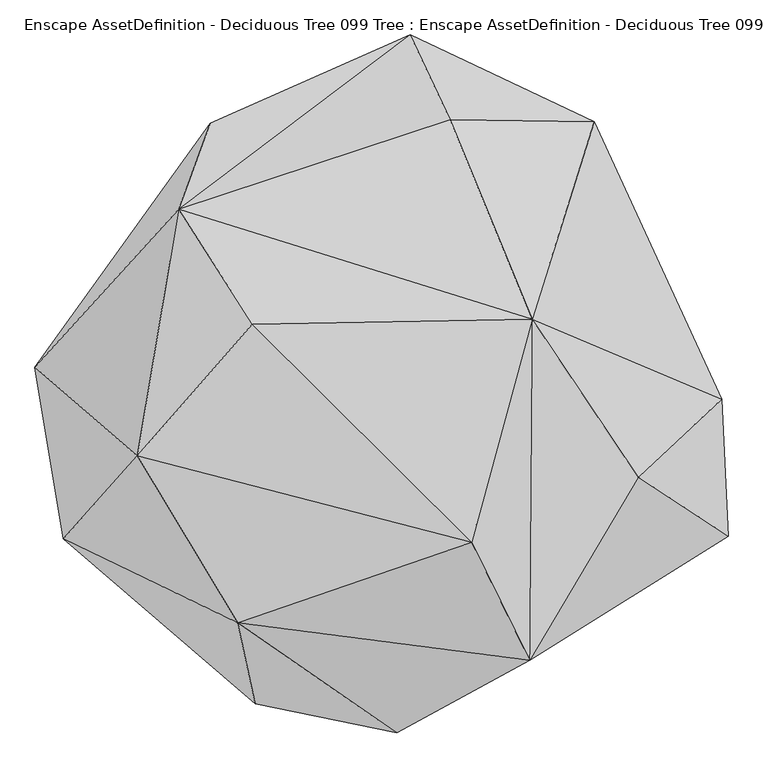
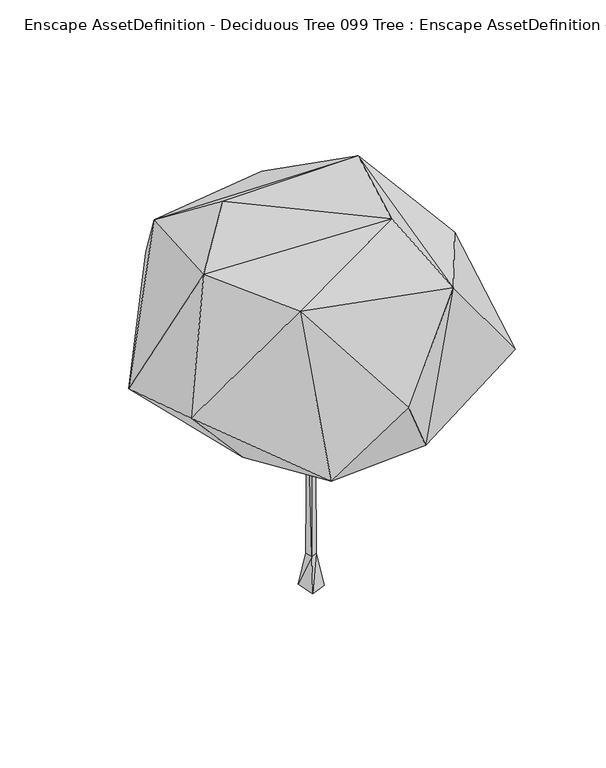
"""IFC4 building model written with IfcOpenShell, lengths in millimetres: geographic element geometry, Enscape AssetDefinition - Deciduous Tree 099 Tree : Enscape AssetDefinition - Deciduous Tree 099 Tree 2."""

from ifc_helpers import new_model, si_unit, origin, place, context, project, spatial, triangles, source, transform, mapped, element, save


def enscape_assetdefinition_deciduous_tree_099_tree_enscape_438e4a8d(model_context):
    return source(origin(), model_context, "Body", "Tessellation", [
        triangles([(1129.7064074, -296.1104141, 2939.8234634), (1527.4606899, -556.6615162, 1836.2963448), (1499.611227, 48.5193767, 1794.1471733), (543.0351677, -574.9966252, 1233.9976433), (-641.9937349, -940.1277901, 3194.250666), (660.2828802, 402.7801749, 3408.5585152), (648.9490517, -1105.8264696, 3066.3776573), (-1085.6222523, -202.5905592, 3257.0000336), (392.5406837, -585.1700595, 3500.0000267), (-1539.5692532, 191.1128623, 2079.7152077), (-1413.9275036, -569.7229646, 2215.7662056), (-1043.769211, -734.9227283, 1810.6638977), (-564.7240691, -1299.4901573, 1757.2388157), (356.2136496, -1181.040774, 1707.0769066), (62.3060761, -1428.1411709, 2316.5514782), (-735.3826567, -314.7273737, 1575.3632893), (-763.2308115, 1269.549979, 2460.0693169), (-590.2420246, 1008.1957283, 1526.0657169), (297.2554932, 1284.801083, 2853.0773048), (936.2245399, 1277.3307541, 2094.7342037), (120.4293315, 1660.556345, 2042.3929218), (434.8158648, 1210.3416018, 1558.5881504), (-904.0223631, 888.8878218, 3052.9697548), (-577.0378524, 380.1937992, 3421.9178741), (-9.8491604, -28.9637458, 1754.1375515), (-37.8176158, -96.7604456, -232.6262622), (-72.1917963, 72.1906154, -232.4976909), (0.0, 105.9492198, -232.7925312), (96.7604456, -37.8176158, -232.6250813), (0.0082548, 42.7775715, 76.8522222), (2.7488497, 32.6548223, 1754.0561611), (-16.3433327, -39.0758807, 76.8616602), (-29.7031424, 29.7125759, 76.8604793), (39.0841332, -16.349228, 76.8380788), (-19.8292175, 23.0309025, 1754.1022339), (32.2526961, -12.1947021, 1754.0432259)], [[27, 28, 29], [36, 31, 35], [32, 25, 35], [31, 36, 34], [29, 28, 30], [30, 33, 35], [34, 32, 26], [27, 33, 30], [32, 33, 27], [25, 32, 34], [27, 29, 26], [36, 35, 25], [32, 35, 33], [31, 34, 30], [29, 30, 34], [30, 35, 31], [34, 26, 29], [27, 30, 28], [32, 27, 26], [25, 34, 36], [6, 23, 24], [20, 19, 6], [19, 23, 6], [20, 22, 21], [20, 21, 19], [21, 23, 19], [21, 17, 23], [22, 18, 21], [18, 17, 21], [4, 18, 22], [16, 4, 14], [4, 16, 18], [16, 10, 18], [17, 18, 10], [17, 10, 23], [16, 12, 10], [16, 14, 13], [16, 13, 12], [13, 14, 15], [11, 12, 13], [10, 12, 11], [10, 11, 8], [10, 8, 23], [23, 8, 24], [9, 6, 24], [8, 9, 24], [11, 13, 5], [13, 15, 5], [11, 5, 8], [8, 5, 9], [15, 14, 7], [15, 7, 5], [9, 7, 6], [5, 7, 9], [7, 1, 6], [3, 4, 22], [3, 22, 20], [3, 20, 6], [3, 6, 1], [4, 2, 14], [2, 3, 1], [14, 2, 7], [2, 1, 7], [2, 4, 3]]),
    ])


if __name__ == "__main__":
    model = new_model("IFC4")
    model_context = context("Model", 3, world=origin())
    ifc_project = project(units=[si_unit("LENGTHUNIT", "METRE", prefix="MILLI")], contexts=[model_context])
    site = spatial("IfcSite", under=ifc_project)
    building = spatial("IfcBuilding", under=site)
    placement = place(None, origin())
    enscape_assetdefinition_deciduous_tree_099_tree_enscape_shape = enscape_assetdefinition_deciduous_tree_099_tree_enscape_438e4a8d(model_context)
    element("IfcGeographicElement", 1, ObjectType="Enscape AssetDefinition - Deciduous Tree 099 Tree : Enscape AssetDefinition - Deciduous Tree 099 Tree 2", at=placement, inside=building, context=model_context, shape_type="MappedRepresentation", body=[
        mapped(enscape_assetdefinition_deciduous_tree_099_tree_enscape_shape, transform((0.0, 0.0, 0.0), x_axis=(1.0, 0.0, 0.0), y_axis=(0.0, 1.0, 0.0), z_axis=(0.0, 0.0, 1.0))),
    ])
    save(model, "model.ifc")
